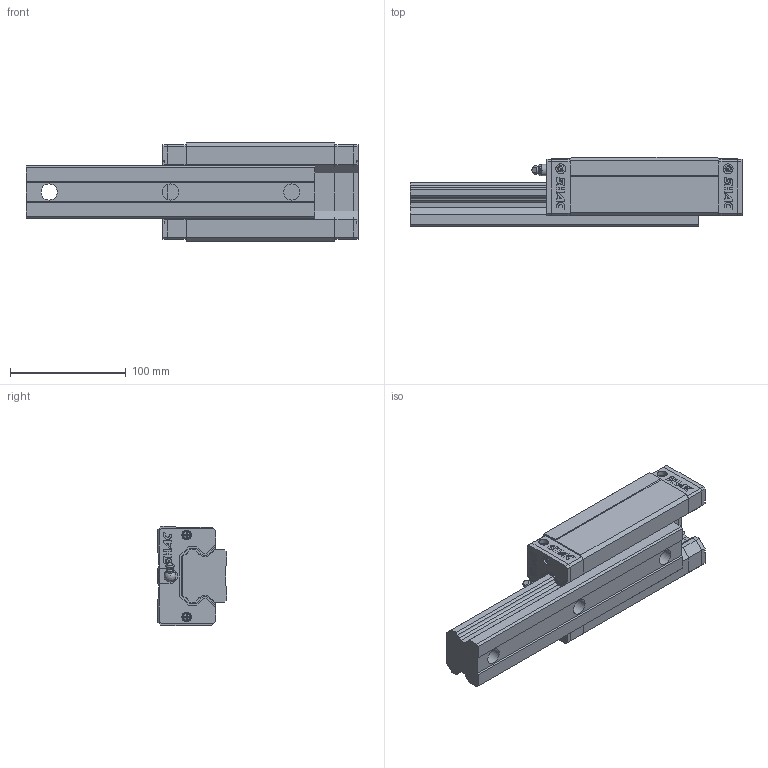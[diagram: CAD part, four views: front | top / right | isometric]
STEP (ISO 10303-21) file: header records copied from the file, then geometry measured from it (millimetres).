
FILE_DESCRIPTION( ( 'STEP AP214' ), '1' );
FILE_NAME( 'F:/品牌/SHAC 台湾鼎翰传动科技有限公司/3D滑块/GHL45HA1R250Z0C-20_20_1_1_.stp', '2025-04-21T22:45:58', ( 'License CC BY-ND 4.0' ), ( 'CADENAS' ), ' ', 'PARTsolutions', ' ' );
FILE_SCHEMA( ( 'AUTOMOTIVE_DESIGN { 1 0 10303 214 1 1 1 1 }' ) );
Length unit declared in the file: millimetre
Products named in the file (8): GHL45HA1R250Z0C-20/20(1_1); _GHR45R250C+RC-20/20(1)_RAIL; _GHL45HA_SLIDER; _GHL45HA_C; _GHL45HA_P; _GH45_SCREW; _GH45_BOLT; _GH45-_G
Assembly tree (12 placements, depth 2):
  GHL45HA1R250Z0C-20/20(1_1)
    _GHR45R250C+RC-20/20(1)_RAIL
    _GHL45HA_SLIDER
    _GHL45HA_C  x2
    _GHL45HA_P  x2
    _GH45_SCREW  x4
    _GH45_BOLT
    _GH45-_G
Bounding box: 287.3 x 60 x 86 mm (x, y, z)
Volume: 874088.9 mm3; surface area: 138761.3 mm2
Topology: 12 solids, 12 shells, 777 faces, 2063 edges, 1361 vertices
Faces by surface type: plane 630, cylinder 106, cone 26, torus 9, sphere 5, bspline 1
Full cylindrical faces by diameter (mm): 0.818 x4, 4.3 x4, 4.5 x1, 6.67 x4, 7.4 x2, 8.34 x4, 8.376 x4, 8.5 x4, 10 x2, 10.3 x2, 14 x3, 20 x3
Entity records: 18204 total; most frequent: CARTESIAN_POINT 2682, ORIENTED_EDGE 2378, DIRECTION 2311, EDGE_CURVE 1189, LINE 975, VECTOR 975, VERTEX_POINT 811, AXIS2_PLACEMENT_3D 668
